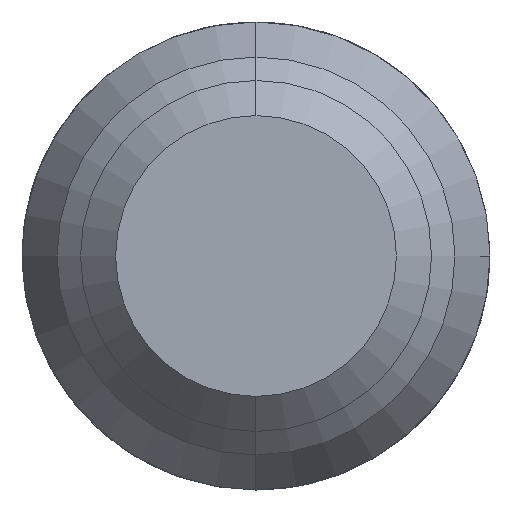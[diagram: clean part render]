
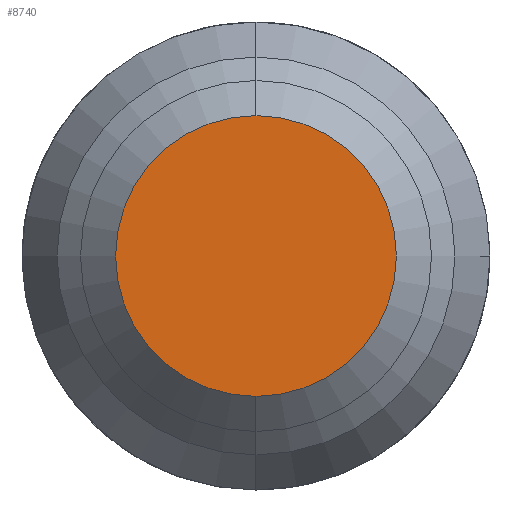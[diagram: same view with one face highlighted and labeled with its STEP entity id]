
A CAD part, front view. The second image highlights one B-rep face of the part: STEP entity #8740.
In plain terms, the highlighted planar face has unit normal (0, -1, 0).
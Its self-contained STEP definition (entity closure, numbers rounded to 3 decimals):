
#518 = CIRCLE ( 'NONE', #6680, 1.2 ) ;
#835 = DIRECTION ( 'NONE',  ( 0., 0., -1. ) ) ;
#1524 = VERTEX_POINT ( 'NONE', #8028 ) ;
#1894 = ORIENTED_EDGE ( 'NONE', *, *, #5799, .T. ) ;
#1939 = EDGE_LOOP ( 'NONE', ( #3882, #1894 ) ) ;
#2105 = CARTESIAN_POINT ( 'NONE',  ( 0., 0., -1.2 ) ) ;
#2200 = DIRECTION ( 'NONE',  ( 0., -1., 0. ) ) ;
#3882 = ORIENTED_EDGE ( 'NONE', *, *, #8459, .T. ) ;
#4419 = PLANE ( 'NONE',  #5657 ) ;
#4446 = CIRCLE ( 'NONE', #10319, 1.2 ) ;
#4480 = DIRECTION ( 'NONE',  ( 0., -1., 0. ) ) ;
#5127 = CARTESIAN_POINT ( 'NONE',  ( -1.5, 0., 0. ) ) ;
#5657 = AXIS2_PLACEMENT_3D ( 'NONE', #5127, #4480, #6011 ) ;
#5748 = DIRECTION ( 'NONE',  ( 0., -1., 0. ) ) ;
#5799 = EDGE_CURVE ( 'NONE', #6082, #1524, #518, .T. ) ;
#6011 = DIRECTION ( 'NONE',  ( 0., 0., -1. ) ) ;
#6082 = VERTEX_POINT ( 'NONE', #2105 ) ;
#6671 = FACE_OUTER_BOUND ( 'NONE', #1939, .T. ) ;
#6680 = AXIS2_PLACEMENT_3D ( 'NONE', #7147, #5748, #835 ) ;
#7147 = CARTESIAN_POINT ( 'NONE',  ( 0., 0., 0. ) ) ;
#7958 = DIRECTION ( 'NONE',  ( 0., 0., -1. ) ) ;
#8028 = CARTESIAN_POINT ( 'NONE',  ( 0., 0., 1.2 ) ) ;
#8459 = EDGE_CURVE ( 'NONE', #1524, #6082, #4446, .T. ) ;
#8740 = ADVANCED_FACE ( 'NONE', ( #6671 ), #4419, .T. ) ;
#8746 = CARTESIAN_POINT ( 'NONE',  ( 0., 0., 0. ) ) ;
#10319 = AXIS2_PLACEMENT_3D ( 'NONE', #8746, #2200, #7958 ) ;
